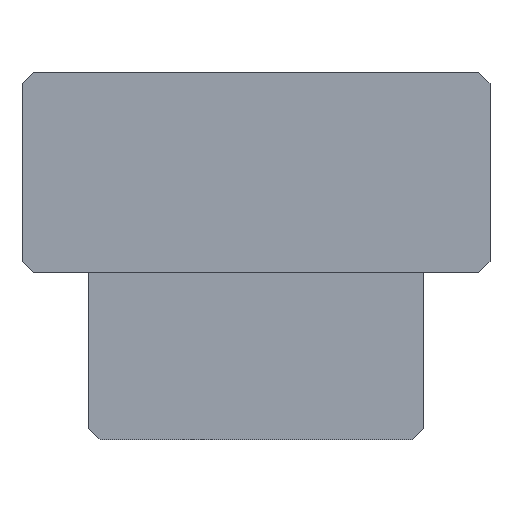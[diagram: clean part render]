
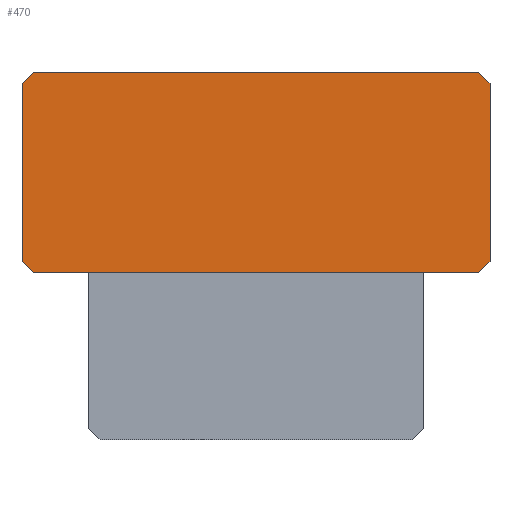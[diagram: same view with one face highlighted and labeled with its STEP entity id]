
A CAD part, front view. The second image highlights one B-rep face of the part: STEP entity #470.
In plain terms, the highlighted planar face has unit normal (0, -1, 0).
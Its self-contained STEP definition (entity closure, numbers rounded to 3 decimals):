
#453=AXIS2_PLACEMENT_3D('Plane Axis2P3D',#450,#451,#452) ;
#37=CARTESIAN_POINT('Line Origine',(0.5,-10.,17.5)) ;
#41=CARTESIAN_POINT('Vertex',(0.,-10.,17.)) ;
#43=CARTESIAN_POINT('Vertex',(1.,-10.,18.)) ;
#84=CARTESIAN_POINT('Line Origine',(21.,-10.,18.)) ;
#88=CARTESIAN_POINT('Vertex',(41.,-10.,18.)) ;
#115=CARTESIAN_POINT('Line Origine',(41.5,-10.,17.5)) ;
#119=CARTESIAN_POINT('Vertex',(42.,-10.,17.)) ;
#139=CARTESIAN_POINT('Line Origine',(0.,-10.,9.)) ;
#143=CARTESIAN_POINT('Vertex',(0.,-10.,1.)) ;
#181=CARTESIAN_POINT('Vertex',(1.,-10.,0.)) ;
#184=CARTESIAN_POINT('Line Origine',(0.5,-10.,0.5)) ;
#391=CARTESIAN_POINT('Line Origine',(42.,-10.,9.)) ;
#395=CARTESIAN_POINT('Vertex',(42.,-10.,1.)) ;
#419=CARTESIAN_POINT('Vertex',(41.,-10.,0.)) ;
#424=CARTESIAN_POINT('Line Origine',(21.,-10.,0.)) ;
#450=CARTESIAN_POINT('Axis2P3D Location',(42.,-10.,0.)) ;
#455=CARTESIAN_POINT('Line Origine',(41.5,-10.,0.5)) ;
#38=DIRECTION('Vector Direction',(0.707,0.,0.707)) ;
#85=DIRECTION('Vector Direction',(-1.,0.,0.)) ;
#116=DIRECTION('Vector Direction',(-0.707,0.,0.707)) ;
#140=DIRECTION('Vector Direction',(0.,0.,1.)) ;
#185=DIRECTION('Vector Direction',(0.707,0.,-0.707)) ;
#392=DIRECTION('Vector Direction',(0.,0.,1.)) ;
#425=DIRECTION('Vector Direction',(-1.,0.,0.)) ;
#451=DIRECTION('Axis2P3D Direction',(0.,1.,-0.)) ;
#452=DIRECTION('Axis2P3D XDirection',(-1.,0.,0.)) ;
#456=DIRECTION('Vector Direction',(-0.707,0.,-0.707)) ;
#39=VECTOR('Line Direction',#38,1.) ;
#86=VECTOR('Line Direction',#85,1.) ;
#117=VECTOR('Line Direction',#116,1.) ;
#141=VECTOR('Line Direction',#140,1.) ;
#186=VECTOR('Line Direction',#185,1.) ;
#393=VECTOR('Line Direction',#392,1.) ;
#426=VECTOR('Line Direction',#425,1.) ;
#457=VECTOR('Line Direction',#456,1.) ;
#461=ORIENTED_EDGE('',*,*,#459,.F.) ;
#462=ORIENTED_EDGE('',*,*,#397,.T.) ;
#463=ORIENTED_EDGE('',*,*,#121,.F.) ;
#464=ORIENTED_EDGE('',*,*,#90,.F.) ;
#465=ORIENTED_EDGE('',*,*,#45,.F.) ;
#466=ORIENTED_EDGE('',*,*,#145,.F.) ;
#467=ORIENTED_EDGE('',*,*,#188,.F.) ;
#468=ORIENTED_EDGE('',*,*,#428,.T.) ;
#470=ADVANCED_FACE('\X2\96F64EF651E04F554F53\X0\',(#469),#454,.F.) ;
#45=EDGE_CURVE('',#42,#44,#40,.T.) ;
#90=EDGE_CURVE('',#44,#89,#87,.F.) ;
#121=EDGE_CURVE('',#89,#120,#118,.F.) ;
#145=EDGE_CURVE('',#144,#42,#142,.T.) ;
#188=EDGE_CURVE('',#182,#144,#187,.F.) ;
#397=EDGE_CURVE('',#396,#120,#394,.T.) ;
#428=EDGE_CURVE('',#182,#420,#427,.F.) ;
#459=EDGE_CURVE('',#396,#420,#458,.T.) ;
#460=EDGE_LOOP('',(#461,#462,#463,#464,#465,#466,#467,#468)) ;
#469=FACE_OUTER_BOUND('',#460,.T.) ;
#40=LINE('Line',#37,#39) ;
#87=LINE('Line',#84,#86) ;
#118=LINE('Line',#115,#117) ;
#142=LINE('Line',#139,#141) ;
#187=LINE('Line',#184,#186) ;
#394=LINE('Line',#391,#393) ;
#427=LINE('Line',#424,#426) ;
#458=LINE('Line',#455,#457) ;
#454=PLANE('',#453) ;
#42=VERTEX_POINT('',#41) ;
#44=VERTEX_POINT('',#43) ;
#89=VERTEX_POINT('',#88) ;
#120=VERTEX_POINT('',#119) ;
#144=VERTEX_POINT('',#143) ;
#182=VERTEX_POINT('',#181) ;
#396=VERTEX_POINT('',#395) ;
#420=VERTEX_POINT('',#419) ;
